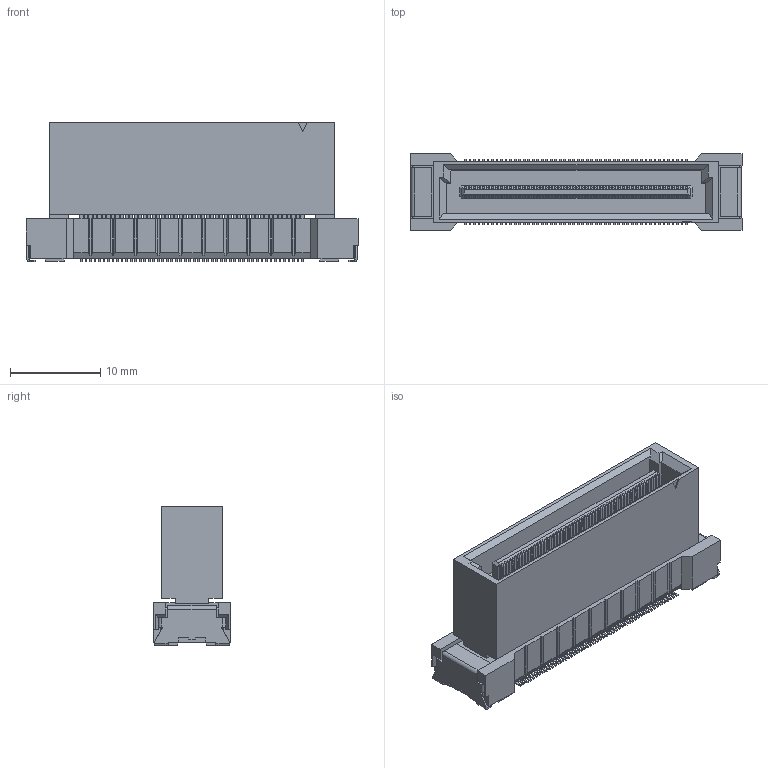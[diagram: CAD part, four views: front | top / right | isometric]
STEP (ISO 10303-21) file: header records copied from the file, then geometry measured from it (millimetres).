
FILE_DESCRIPTION(('Creo Elements/Direct Modeling STEP Export'),'2;1');
FILE_NAME('P3E104_DT00-100FS-10-T.stp','2022-02-25T17:37:37',(''),(''),'Creo Elements/Direct Modeling STEP processor for AP214 (Solid Model)','Creo Elements/Direct Modeling 20.4A 18-Oct-2021 (C) Parametric Technology GmbH','');
FILE_SCHEMA(('AUTOMOTIVE_DESIGN { 1 0 10303 214 1 1 1 1 }'));
Products named in the file (2): P3E104_DT00-100FS-10-T
Assembly tree (1 placements, depth 2):
  P3E104_DT00-100FS-10-T
    P3E104_DT00-100FS-10-T
Bounding box: 36.8 x 8.5 x 15.5 mm (x, y, z)
Volume: 2911.7 mm3; surface area: 2857.7 mm2
Topology: 1 solids, 1 shells, 2833 faces, 7957 edges, 5226 vertices
Faces by surface type: plane 2607, cylinder 226
Entity records: 88162 total; most frequent: ORIENTED_EDGE 15914, CARTESIAN_POINT 15600, DIRECTION 13555, EDGE_CURVE 7957, VECTOR 7193, LINE 7193, VERTEX_POINT 5226, AXIS2_PLACEMENT_3D 3181
